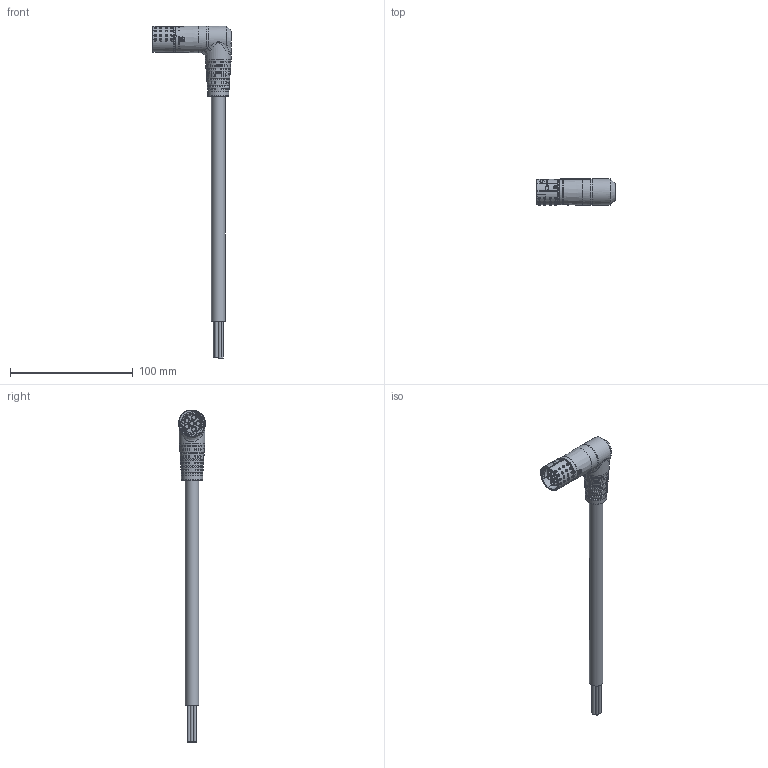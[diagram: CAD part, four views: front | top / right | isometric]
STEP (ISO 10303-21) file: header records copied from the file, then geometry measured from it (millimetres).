
FILE_DESCRIPTION (( 'STEP AP203' ), '1' );
FILE_NAME ('1127207_W-TEC_15K_GLATT-BU-90°_R_STEP.STEP', '2023-09-05T09:48:02', ( '' ), ( '' ), 'SwSTEP 2.0', 'SolidWorks 2021', '' );
FILE_SCHEMA (( 'CONFIG_CONTROL_DESIGN' ));
Length unit declared in the file: millimetre
Products named in the file (1): 1127207_W-TEC_15K_GLATT-BU-90起R_STEP
Bounding box: 63.82 x 21.87 x 270.27 mm (x, y, z)
Surface area: 18394.2 mm2 (no closed solid volume)
Topology: 0 solids, 18 shells, 535 faces, 2109 edges, 1501 vertices
Faces by surface type: bspline 257, plane 144, cylinder 103, cone 27, torus 4
Full cylindrical faces by diameter (mm): 2.5 x5, 3.3 x6, 4 x1, 4.2 x3, 11.1 x1, 17.397 x1, 18.304 x1, 18.4 x1, 21.038 x1, 21.72 x1
Entity records: 40677 total; most frequent: CARTESIAN_POINT 26975, ORIENTED_EDGE 3036, EDGE_CURVE 1996, DIRECTION 1858, VERTEX_POINT 1472, B_SPLINE_CURVE_WITH_KNOTS 993, AXIS2_PLACEMENT_3D 671, EDGE_LOOP 662
